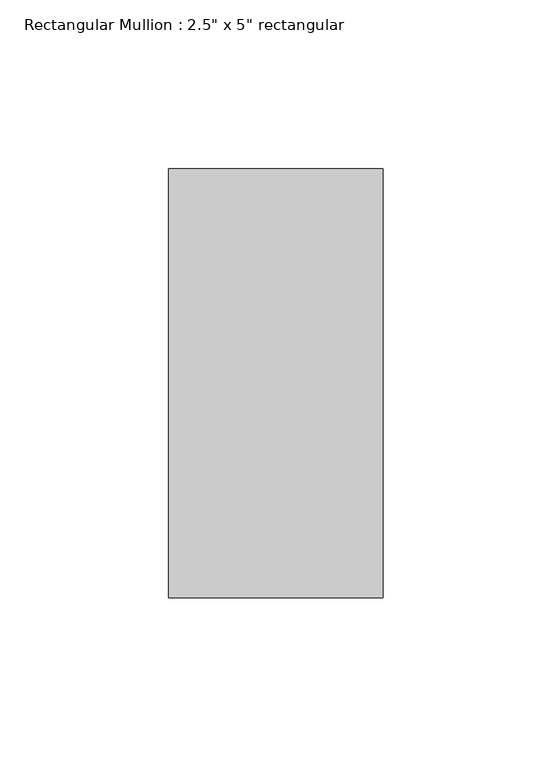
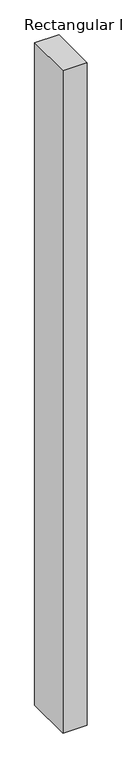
"""IFC4 building model written with IfcOpenShell, lengths in millimetres: member geometry."""

from ifc_helpers import new_model, si_unit, frame, origin, place, context, project, spatial, polyline, outline, extrude, source, transform, mapped, element, save


def member_627e65e0(model_context):
    return source(origin(), model_context, "Body", "SweptSolid", [
        extrude(outline(polyline([(31.75, 63.5), (31.75, -63.5), (-31.75, -63.5), (-31.75, 63.5), (31.75, 63.5)])), frame((0.0, 0.0, -1822.1172576), z_axis=(0.0, 0.0, 1.0), x_axis=(1.0, 0.0, 0.0)), (0.0, 0.0, 1.0), 1822.1172576),
    ])


if __name__ == "__main__":
    model = new_model("IFC4")
    model_context = context("Model", 3, world=origin())
    ifc_project = project(units=[si_unit("LENGTHUNIT", "METRE", prefix="MILLI")], contexts=[model_context])
    site = spatial("IfcSite", under=ifc_project)
    building = spatial("IfcBuilding", under=site)
    placement = place(None, origin())
    member_shape = member_627e65e0(model_context)
    element("IfcMember", 1, ObjectType="Rectangular Mullion : 2.5\" x 5\" rectangular", at=placement, inside=building, context=model_context, shape_type="MappedRepresentation", body=[
        mapped(member_shape, transform((0.0, 0.0, 0.0), x_axis=(1.0, 0.0, 0.0), y_axis=(0.0, 1.0, 0.0), z_axis=(0.0, 0.0, 1.0))),
    ])
    save(model, "model.ifc")
